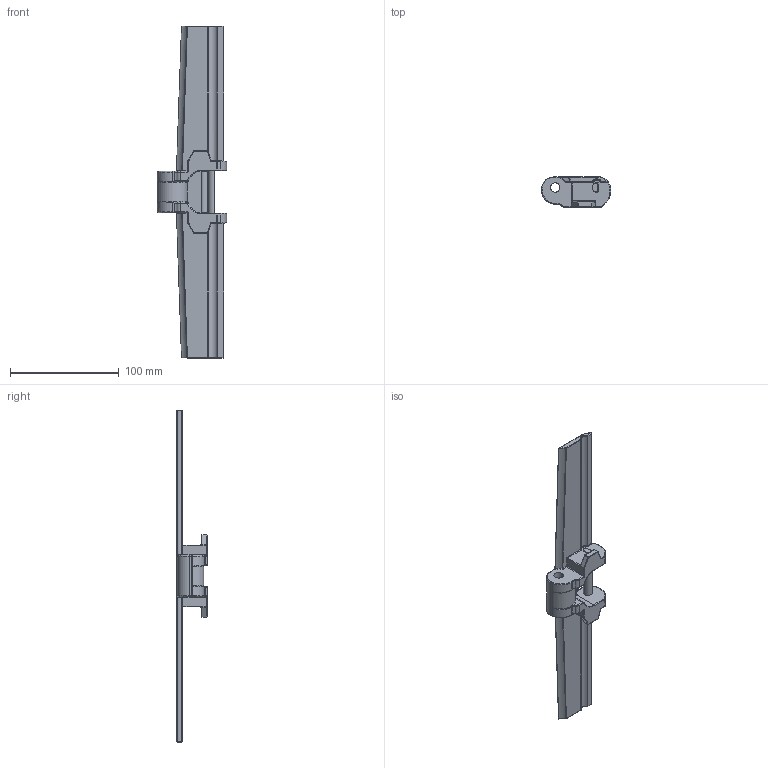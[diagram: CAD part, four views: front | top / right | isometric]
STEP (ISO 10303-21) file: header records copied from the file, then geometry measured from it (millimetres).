
FILE_DESCRIPTION (( 'STEP AP203' ), '1' );
FILE_NAME ('2000.882.1200.STEP', '2021-06-21T09:20:54', ( 'Localadmin' ), ( 'Microsoft' ), 'SwSTEP 2.0', 'SolidWorks 2018', '' );
FILE_SCHEMA (( 'CONFIG_CONTROL_DESIGN' ));
Length unit declared in the file: millimetre
Products named in the file (1): 2000.882.1200
Bounding box: 63.5 x 27.69 x 304.8 mm (x, y, z)
Volume: 85155.7 mm3; surface area: 36830.9 mm2
Topology: 2 solids, 2 shells, 278 faces, 644 edges, 352 vertices
Faces by surface type: bspline 115, cylinder 112, plane 47, cone 4
Entity records: 10103 total; most frequent: CARTESIAN_POINT 4485, ORIENTED_EDGE 1252, DIRECTION 1077, EDGE_CURVE 626, AXIS2_PLACEMENT_3D 426, VERTEX_POINT 352, EDGE_LOOP 284, ADVANCED_FACE 278
